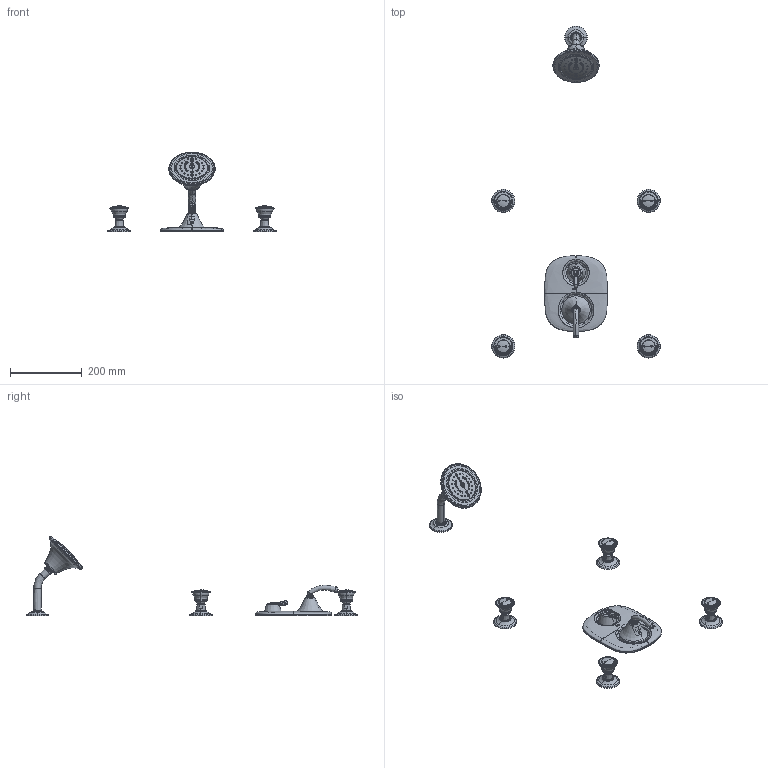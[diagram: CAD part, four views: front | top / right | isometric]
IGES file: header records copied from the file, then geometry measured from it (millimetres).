
Start section:  PTC IGES file: sku_283.igs
Global section: file name: sku_283.igs; native system: Pro/ENGINEER by Parametric Technology Corporation; preprocessor: 2006460; author: 9dutterb; organization: Unknown; date: 20071219.092813; units: inch
Bounding box: 471.5 x 927.9 x 222.96 mm (x, y, z)
Surface area: 283265.1 mm2 (no closed solid volume)
Topology: 0 solids, 0 shells, 756 faces, 5633 edges, 5621 vertices
Faces by surface type: revolution 569, bspline 183, extrusion 4
